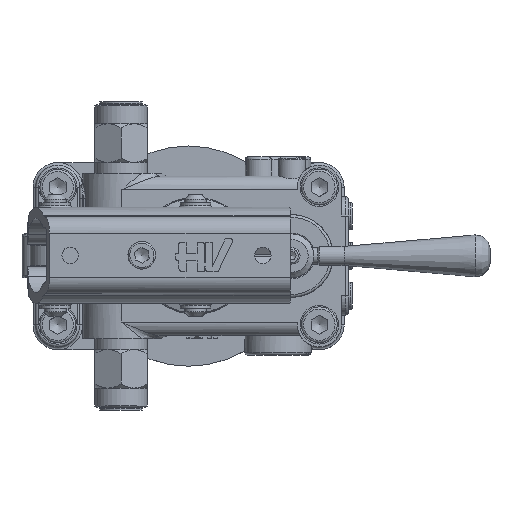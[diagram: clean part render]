
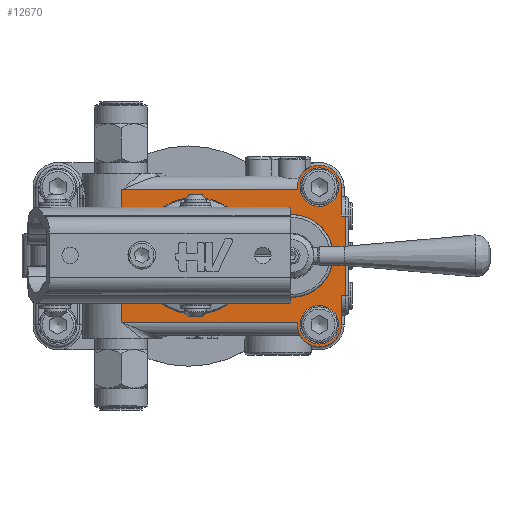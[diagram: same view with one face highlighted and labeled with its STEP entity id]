
A CAD part, top view. The second image highlights one B-rep face of the part: STEP entity #12670.
In plain terms, the highlighted planar face has unit normal (0, 0, 1).
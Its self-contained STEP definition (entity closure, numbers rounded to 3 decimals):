
#10971=CARTESIAN_POINT('',(96.,58.,43.));
#10972=VERTEX_POINT('',#10971);
#10980=CARTESIAN_POINT('',(96.,59.,43.));
#10981=VERTEX_POINT('',#10980);
#10982=CARTESIAN_POINT('',(96.,58.,43.));
#10983=DIRECTION('',(0.0,1.0,0.0));
#10984=VECTOR('',#10983,1.);
#10985=LINE('',#10982,#10984);
#10986=EDGE_CURVE('',#10972,#10981,#10985,.T.);
#11002=CARTESIAN_POINT('',(96.0,10.0,43.));
#11003=VERTEX_POINT('',#11002);
#11013=CARTESIAN_POINT('',(96.0,9.,43.));
#11014=VERTEX_POINT('',#11013);
#11021=CARTESIAN_POINT('',(96.,9.,43.));
#11022=DIRECTION('',(0.0,1.0,0.0));
#11023=VECTOR('',#11022,1.);
#11024=LINE('',#11021,#11023);
#11025=EDGE_CURVE('',#11014,#11003,#11024,.T.);
#11184=CARTESIAN_POINT('',(32.,44.122,43.));
#11185=VERTEX_POINT('',#11184);
#11234=CARTESIAN_POINT('',(33.732,41.0,43.));
#11235=VERTEX_POINT('',#11234);
#11243=CARTESIAN_POINT('',(33.732,41.0,43.));
#11244=CARTESIAN_POINT('',(33.732,41.528,43.));
#11245=CARTESIAN_POINT('',(33.438,42.767,43.));
#11246=CARTESIAN_POINT('',(32.582,43.719,43.));
#11247=CARTESIAN_POINT('',(32.,44.122,43.));
#11248=B_SPLINE_CURVE_WITH_KNOTS('',3,(#11243,#11244,#11245,#11246,#11247),.UNSPECIFIED.,.F.,.U.,(4,1,4),(2.696,2.855,3.066),.UNSPECIFIED.);
#11249=EDGE_CURVE('',#11235,#11185,#11248,.T.);
#11261=CARTESIAN_POINT('',(33.732,27.,43.));
#11262=VERTEX_POINT('',#11261);
#11270=CARTESIAN_POINT('',(33.732,27.,43.));
#11271=DIRECTION('',(0.0,1.0,0.0));
#11272=VECTOR('',#11271,14.);
#11273=LINE('',#11270,#11272);
#11274=EDGE_CURVE('',#11262,#11235,#11273,.T.);
#11307=CARTESIAN_POINT('',(32.,23.878,43.));
#11308=VERTEX_POINT('',#11307);
#11316=CARTESIAN_POINT('',(32.,23.878,43.));
#11317=CARTESIAN_POINT('',(32.433,24.178,43.));
#11318=CARTESIAN_POINT('',(33.336,25.067,43.));
#11319=CARTESIAN_POINT('',(33.732,26.29,43.0));
#11320=CARTESIAN_POINT('',(33.732,27.,43.));
#11321=B_SPLINE_CURVE_WITH_KNOTS('',3,(#11316,#11317,#11318,#11319,#11320),.UNSPECIFIED.,.F.,.U.,(4,1,4),(2.696,2.854,3.065),.UNSPECIFIED.);
#11322=EDGE_CURVE('',#11308,#11262,#11321,.T.);
#12051=CARTESIAN_POINT('',(112.0,59.,43.));
#12052=VERTEX_POINT('',#12051);
#12059=CARTESIAN_POINT('',(112.,48.5,43.));
#12060=VERTEX_POINT('',#12059);
#12061=CARTESIAN_POINT('',(112.0,59.,43.));
#12062=DIRECTION('',(0.0,-1.0,0.0));
#12063=VECTOR('',#12062,10.5);
#12064=LINE('',#12061,#12063);
#12065=EDGE_CURVE('',#12052,#12060,#12064,.T.);
#12180=CARTESIAN_POINT('',(112.0,19.5,43.));
#12181=VERTEX_POINT('',#12180);
#12189=CARTESIAN_POINT('',(112.,9.,43.));
#12190=VERTEX_POINT('',#12189);
#12191=CARTESIAN_POINT('',(112.,19.5,43.));
#12192=DIRECTION('',(0.0,-1.0,0.0));
#12193=VECTOR('',#12192,10.5);
#12194=LINE('',#12191,#12193);
#12195=EDGE_CURVE('',#12181,#12190,#12194,.T.);
#12527=CARTESIAN_POINT('',(113.5,48.5,43.));
#12528=VERTEX_POINT('',#12527);
#12538=CARTESIAN_POINT('',(112.,48.5,43.));
#12539=DIRECTION('',(1.0,0.0,0.0));
#12540=VECTOR('',#12539,1.5);
#12541=LINE('',#12538,#12540);
#12542=EDGE_CURVE('',#12060,#12528,#12541,.T.);
#12547=CARTESIAN_POINT('',(104.,34.,43.));
#12548=DIRECTION('',(0.0,0.0,1.0));
#12549=DIRECTION('',(1.0,0.0,0.0));
#12550=AXIS2_PLACEMENT_3D('',#12547,#12548,#12549);
#12551=PLANE('',#12550);
#12552=CARTESIAN_POINT('',(113.5,19.5,43.));
#12553=VERTEX_POINT('',#12552);
#12554=CARTESIAN_POINT('',(113.5,48.5,43.));
#12555=DIRECTION('',(0.0,-1.0,0.0));
#12556=VECTOR('',#12555,29.);
#12557=LINE('',#12554,#12556);
#12558=EDGE_CURVE('',#12528,#12553,#12557,.T.);
#12559=ORIENTED_EDGE('',*,*,#12558,.F.);
#12560=ORIENTED_EDGE('',*,*,#12542,.F.);
#12561=ORIENTED_EDGE('',*,*,#12065,.F.);
#12562=CARTESIAN_POINT('',(104.,59.,43.));
#12563=DIRECTION('',(0.0,0.0,-1.0));
#12564=DIRECTION('',(1.0,0.0,0.0));
#12565=AXIS2_PLACEMENT_3D('',#12562,#12563,#12564);
#12566=CIRCLE('',#12565,8.0);
#12567=EDGE_CURVE('',#10981,#12052,#12566,.T.);
#12568=ORIENTED_EDGE('',*,*,#12567,.F.);
#12569=ORIENTED_EDGE('',*,*,#10986,.F.);
#12570=CARTESIAN_POINT('',(32.,58.,43.));
#12571=VERTEX_POINT('',#12570);
#12572=CARTESIAN_POINT('',(96.,58.,43.));
#12573=DIRECTION('',(-1.0,0.0,0.0));
#12574=VECTOR('',#12573,64.);
#12575=LINE('',#12572,#12574);
#12576=EDGE_CURVE('',#10972,#12571,#12575,.T.);
#12577=ORIENTED_EDGE('',*,*,#12576,.T.);
#12578=CARTESIAN_POINT('',(32.0,44.122,43.0));
#12579=DIRECTION('',(0.0,1.0,0.0));
#12580=VECTOR('',#12579,13.878);
#12581=LINE('',#12578,#12580);
#12582=EDGE_CURVE('',#11185,#12571,#12581,.T.);
#12583=ORIENTED_EDGE('',*,*,#12582,.F.);
#12584=ORIENTED_EDGE('',*,*,#11249,.F.);
#12585=ORIENTED_EDGE('',*,*,#11274,.F.);
#12586=ORIENTED_EDGE('',*,*,#11322,.F.);
#12587=CARTESIAN_POINT('',(32.,10.0,43.));
#12588=VERTEX_POINT('',#12587);
#12589=CARTESIAN_POINT('',(32.0,10.,43.0));
#12590=DIRECTION('',(0.0,1.0,0.0));
#12591=VECTOR('',#12590,13.878);
#12592=LINE('',#12589,#12591);
#12593=EDGE_CURVE('',#12588,#11308,#12592,.T.);
#12594=ORIENTED_EDGE('',*,*,#12593,.F.);
#12595=CARTESIAN_POINT('',(96.0,10.0,43.));
#12596=DIRECTION('',(-1.0,0.0,0.0));
#12597=VECTOR('',#12596,64.);
#12598=LINE('',#12595,#12597);
#12599=EDGE_CURVE('',#11003,#12588,#12598,.T.);
#12600=ORIENTED_EDGE('',*,*,#12599,.F.);
#12601=ORIENTED_EDGE('',*,*,#11025,.F.);
#12602=CARTESIAN_POINT('',(104.0,9.,43.));
#12603=DIRECTION('',(0.0,0.0,-1.0));
#12604=DIRECTION('',(-1.0,0.0,0.0));
#12605=AXIS2_PLACEMENT_3D('',#12602,#12603,#12604);
#12606=CIRCLE('',#12605,8.0);
#12607=EDGE_CURVE('',#12190,#11014,#12606,.T.);
#12608=ORIENTED_EDGE('',*,*,#12607,.F.);
#12609=ORIENTED_EDGE('',*,*,#12195,.F.);
#12610=CARTESIAN_POINT('',(112.0,19.5,43.));
#12611=DIRECTION('',(1.0,0.0,0.0));
#12612=VECTOR('',#12611,1.5);
#12613=LINE('',#12610,#12612);
#12614=EDGE_CURVE('',#12181,#12553,#12613,.T.);
#12615=ORIENTED_EDGE('',*,*,#12614,.T.);
#12616=EDGE_LOOP('',(#12559,#12560,#12561,#12568,#12569,#12577,#12583,#12584,#12585,#12586,#12594,#12600,#12601,#12608,#12609,#12615));
#12617=FACE_OUTER_BOUND('',#12616,.T.);
#12618=CARTESIAN_POINT('',(40.131,36.245,43.));
#12619=VERTEX_POINT('',#12618);
#12620=CARTESIAN_POINT('',(59.,34.,43.));
#12621=DIRECTION('',(0.,0.,-1.0));
#12622=DIRECTION('',(0.993,-0.118,0.));
#12623=AXIS2_PLACEMENT_3D('',#12620,#12621,#12622);
#12624=CIRCLE('',#12623,19.002);
#12625=EDGE_CURVE('',#12619,#12619,#12624,.T.);
#12626=ORIENTED_EDGE('',*,*,#12625,.T.);
#12627=EDGE_LOOP('',(#12626));
#12628=FACE_BOUND('',#12627,.T.);
#12629=CARTESIAN_POINT('',(111.,59.,43.));
#12630=VERTEX_POINT('',#12629);
#12631=CARTESIAN_POINT('',(104.,59.,43.));
#12632=DIRECTION('',(0.0,0.0,-1.0));
#12633=DIRECTION('',(1.0,0.0,0.0));
#12634=AXIS2_PLACEMENT_3D('',#12631,#12632,#12633);
#12635=CIRCLE('',#12634,7.);
#12636=EDGE_CURVE('',#12630,#12630,#12635,.T.);
#12637=ORIENTED_EDGE('',*,*,#12636,.T.);
#12638=EDGE_LOOP('',(#12637));
#12639=FACE_BOUND('',#12638,.T.);
#12640=CARTESIAN_POINT('',(111.0,9.,43.));
#12641=VERTEX_POINT('',#12640);
#12642=CARTESIAN_POINT('',(104.0,9.,43.));
#12643=DIRECTION('',(0.0,0.0,-1.0));
#12644=DIRECTION('',(1.0,0.0,0.0));
#12645=AXIS2_PLACEMENT_3D('',#12642,#12643,#12644);
#12646=CIRCLE('',#12645,7.);
#12647=EDGE_CURVE('',#12641,#12641,#12646,.T.);
#12648=ORIENTED_EDGE('',*,*,#12647,.T.);
#12649=EDGE_LOOP('',(#12648));
#12650=FACE_BOUND('',#12649,.T.);
#12651=CARTESIAN_POINT('',(83.0,44.198,43.));
#12652=VERTEX_POINT('',#12651);
#12653=CARTESIAN_POINT('',(83.0,23.802,43.));
#12654=VERTEX_POINT('',#12653);
#12655=CARTESIAN_POINT('',(94.,34.0,43.));
#12656=DIRECTION('',(0.0,0.0,-1.0));
#12657=DIRECTION('',(-1.0,0.0,0.0));
#12658=AXIS2_PLACEMENT_3D('',#12655,#12656,#12657);
#12659=CIRCLE('',#12658,15.0);
#12660=EDGE_CURVE('',#12652,#12654,#12659,.T.);
#12661=ORIENTED_EDGE('',*,*,#12660,.T.);
#12662=CARTESIAN_POINT('',(83.0,23.802,43.));
#12663=DIRECTION('',(0.0,1.0,0.0));
#12664=VECTOR('',#12663,20.396);
#12665=LINE('',#12662,#12664);
#12666=EDGE_CURVE('',#12654,#12652,#12665,.T.);
#12667=ORIENTED_EDGE('',*,*,#12666,.T.);
#12668=EDGE_LOOP('',(#12661,#12667));
#12669=FACE_BOUND('',#12668,.T.);
#12670=ADVANCED_FACE('',(#12617,#12628,#12639,#12650,#12669),#12551,.T.);
